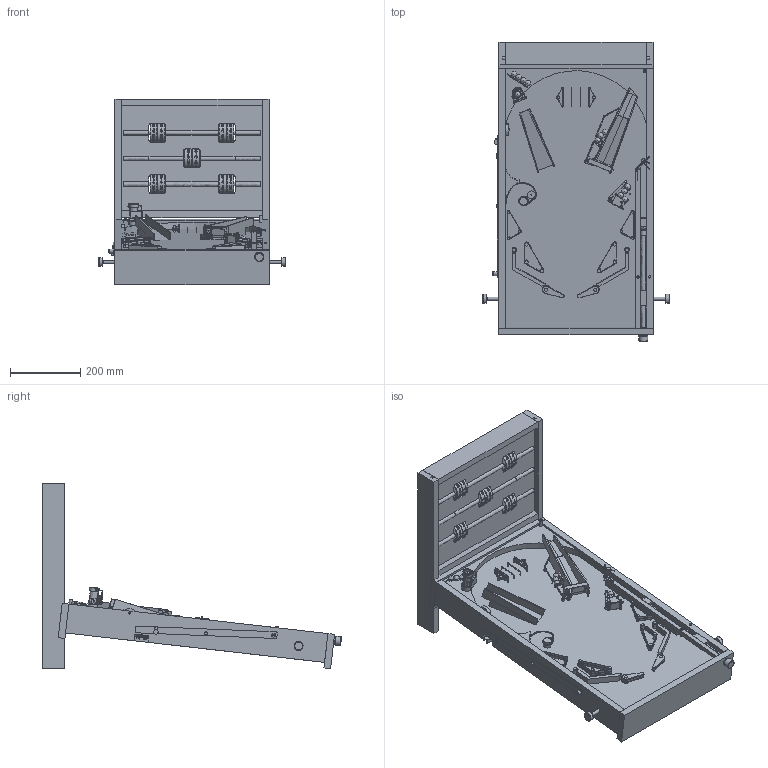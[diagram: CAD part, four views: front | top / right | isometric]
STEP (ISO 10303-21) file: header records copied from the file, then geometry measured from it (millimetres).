
FILE_DESCRIPTION ((), '1');
FILE_NAME ('/Volumes/Data/Drawings/Moi3D/pinball mechanical/pinball mechanical 20210709-01.stp', '2021-07-09T11:50:27', ('Unknown'), ('Unknown'), 'HarmonyWare STEP v2.1.4', 'HarmonyWare Translators', '');
FILE_SCHEMA (('CONFIG_CONTROL_DESIGN'));
Length unit declared in the file: inch
Products named in the file (231): score keeper assy; plunger; nylon washer; drain lane guides; flippers; flipper lane guides; side guide; shooter lane; plunger pins; pocket hole and rails; flipper button shaft bearing; flipper stop block right side; flipper rubber band post; flipper strike block screw; pocket hole assy; ramp right; rail top bonus balls; ramp left; spinner assy; rollover lanes top; bumper post top right corner; flip target carter pins; flip target L-bracket; flip target screw nut kicker; shooter gate assy; tube target assy; top arc; sides and ends; flipper strike block bottom; flipper button; side left arc; Rubber eraser bumper; playing field surface
Assembly tree (230 placements, depth 2):
  (unnamed)
    score keeper assy
    score keeper assy
    score keeper assy
    score keeper assy
    score keeper assy
    score keeper assy
    score keeper assy
    score keeper assy
    score keeper assy
    score keeper assy
    score keeper assy
    score keeper assy
    score keeper assy
    score keeper assy
    score keeper assy
    score keeper assy
    score keeper assy
    score keeper assy
    score keeper assy
    score keeper assy
    score keeper assy
    score keeper assy
    score keeper assy
    score keeper assy
    score keeper assy
    score keeper assy
    score keeper assy
    score keeper assy
    score keeper assy
    score keeper assy
    score keeper assy
    score keeper assy
    score keeper assy
    score keeper assy
    score keeper assy
    score keeper assy
    score keeper assy
    score keeper assy
    score keeper assy
    score keeper assy
    score keeper assy
    score keeper assy
    score keeper assy
    score keeper assy
    score keeper assy
    score keeper assy
    score keeper assy
    score keeper assy
    score keeper assy
    score keeper assy
    score keeper assy
    score keeper assy
    score keeper assy
    score keeper assy
    score keeper assy
    score keeper assy
    score keeper assy
    plunger
    nylon washer
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Bounding box: 533.35 x 849.24 x 527.05 mm (x, y, z)
Volume: 12514238.4 mm3; surface area: 2575200.6 mm2
Topology: 220 solids, 230 shells, 2531 faces, 6285 edges, 4359 vertices
Faces by surface type: bspline 2531
Entity records: 430208 total; most frequent: CARTESIAN_POINT 351750, ORIENTED_EDGE 12408, EDGE_CURVE 6239, B_SPLINE_CURVE_WITH_KNOTS 5040, VERTEX_POINT 4337, EDGE_LOOP 3030, FACE_OUTER_BOUND 2531, ADVANCED_FACE 2531
